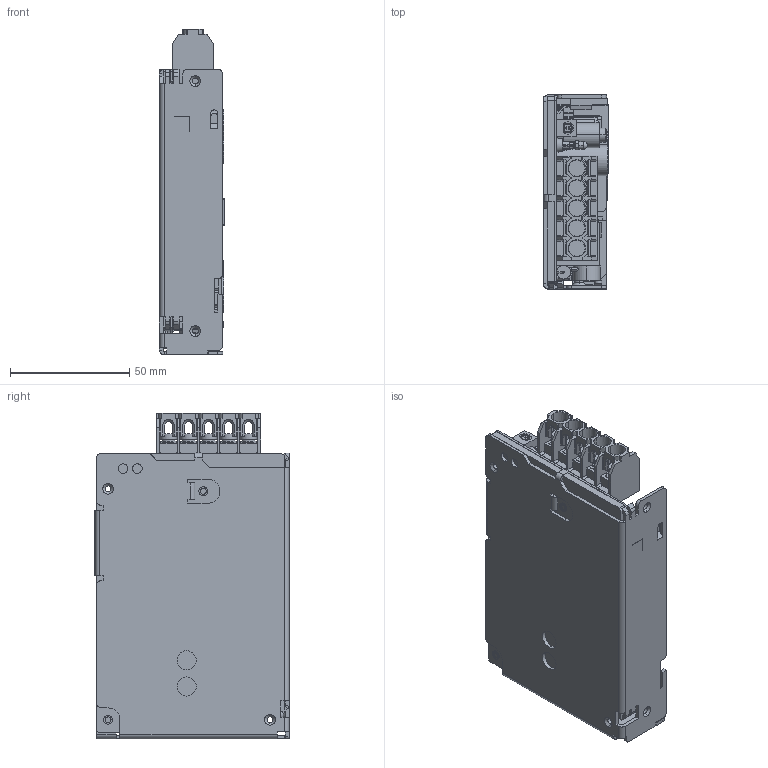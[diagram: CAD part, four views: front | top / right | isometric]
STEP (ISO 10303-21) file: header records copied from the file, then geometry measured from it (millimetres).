
FILE_DESCRIPTION (( 'STEP AP214' ), '1' );
FILE_NAME ('hws50a_outline.STEP', '2013-11-15T05:42:02', ( 'tluser' ), ( '' ), 'SwSTEP 2.0', 'SolidWorks 2013', '' );
FILE_SCHEMA (( 'AUTOMOTIVE_DESIGN' ));
Length unit declared in the file: millimetre
Products named in the file (1): hws50a_outline
Bounding box: 27.3 x 81.5 x 136.8 mm (x, y, z)
Volume: 112219.1 mm3; surface area: 71903.9 mm2
Topology: 1 solids, 31 shells, 2654 faces, 7307 edges, 4744 vertices
Faces by surface type: plane 1673, cylinder 811, torus 78, cone 48, bspline 33, sphere 11
Entity records: 114988 total; most frequent: CARTESIAN_POINT 16886, ORIENTED_EDGE 14572, DIRECTION 14097, EDGE_CURVE 7286, VECTOR 5347, LINE 5347, VERTEX_POINT 4742, AXIS2_PLACEMENT_3D 4375
